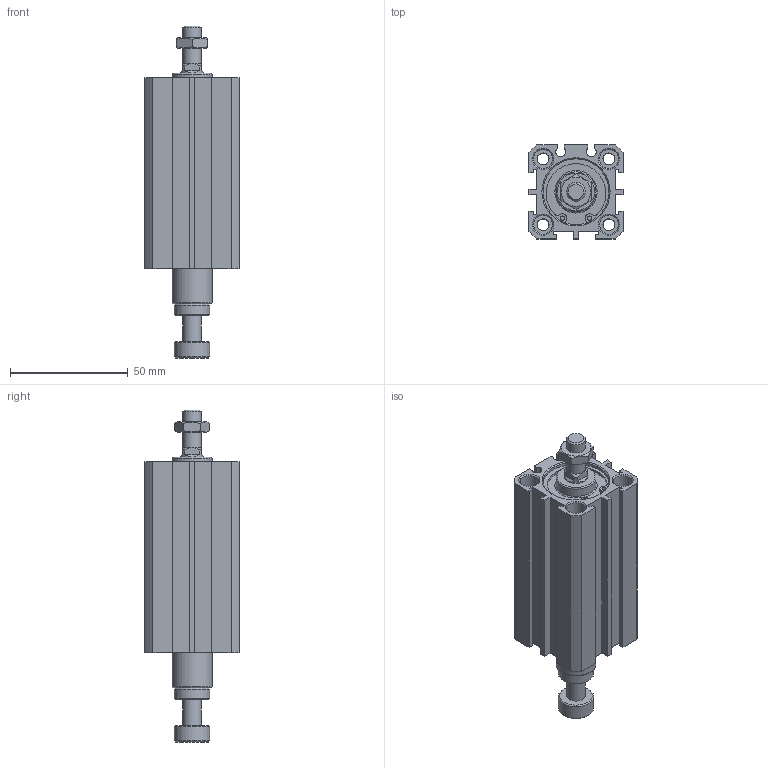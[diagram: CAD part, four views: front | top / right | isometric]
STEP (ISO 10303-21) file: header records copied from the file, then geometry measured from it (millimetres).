
FILE_DESCRIPTION((''),'2;1');
FILE_NAME('I:\3D電子目錄\氣缸\JDAR\JDAR-BS\JDAR25-BS\JDAR25x50-BS.stp','2007-05-05T11:20:07',('662F206'),(''),'Autodesk Inventor 11','Autodesk Inventor 11','');
FILE_SCHEMA(('AUTOMOTIVE_DESIGN { 1 0 10303 214 1 1 1 1 }'));
Length unit declared in the file: millimetre
Products named in the file (3): JDAR25-BS; R 形環 28
Assembly tree (3 placements, depth 2):
  JDAR25-BS
    JDAR25-BS
    R 形環 28  x2
Bounding box: 40 x 40 x 141.1 mm (x, y, z)
Volume: 110524.5 mm3; surface area: 32046.8 mm2
Topology: 3 solids, 3 shells, 175 faces, 406 edges, 263 vertices
Faces by surface type: plane 94, cylinder 50, cone 23, bspline 6, torus 2
Full cylindrical faces by diameter (mm): 1.5 x2, 1.9 x4, 5.1 x4, 8 x11, 10 x1, 15 x2, 17 x2, 28 x4, 29.4 x2
Entity records: 4479 total; most frequent: CARTESIAN_POINT 889, DIRECTION 742, ORIENTED_EDGE 630, EDGE_CURVE 315, AXIS2_PLACEMENT_3D 284, EDGE_LOOP 256, VERTEX_POINT 237, VECTOR 174
